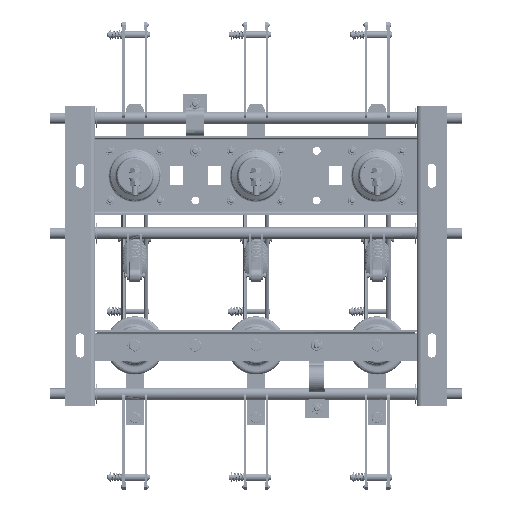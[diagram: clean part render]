
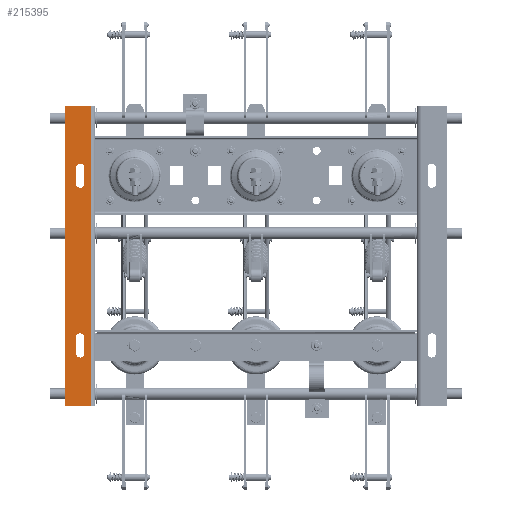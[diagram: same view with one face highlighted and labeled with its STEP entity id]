
A CAD part, front view. The second image highlights one B-rep face of the part: STEP entity #215395.
In plain terms, the highlighted planar face has unit normal (0, -1, 0).
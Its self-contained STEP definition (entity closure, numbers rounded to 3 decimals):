
#2320 = DIRECTION ( 'NONE',  ( 0., 1., 0. ) ) ;
#4794 = AXIS2_PLACEMENT_3D ( 'NONE', #53620, #189325, #73080 ) ;
#5358 = CARTESIAN_POINT ( 'NONE',  ( -290., 0., -127.002 ) ) ;
#12454 = LINE ( 'NONE', #147302, #212512 ) ;
#14221 = EDGE_CURVE ( 'NONE', #118760, #117509, #95198, .T. ) ;
#16518 = CARTESIAN_POINT ( 'NONE',  ( -283., 0., -153.002 ) ) ;
#18799 = VECTOR ( 'NONE', #197761, 1000. ) ;
#19904 = CARTESIAN_POINT ( 'NONE',  ( -273., 0., 254.998 ) ) ;
#21162 = EDGE_CURVE ( 'NONE', #228473, #157132, #12454, .T. ) ;
#22148 = CARTESIAN_POINT ( 'NONE',  ( -315., 0., 254.998 ) ) ;
#24787 = DIRECTION ( 'NONE',  ( -1., 0., 0. ) ) ;
#25325 = CARTESIAN_POINT ( 'NONE',  ( -297., 0., -153.002 ) ) ;
#27169 = CIRCLE ( 'NONE', #214005, 7. ) ;
#27284 = ORIENTED_EDGE ( 'NONE', *, *, #21162, .T. ) ;
#27478 = VERTEX_POINT ( 'NONE', #251028 ) ;
#27632 = ORIENTED_EDGE ( 'NONE', *, *, #193924, .T. ) ;
#29446 = ORIENTED_EDGE ( 'NONE', *, *, #67808, .T. ) ;
#29592 = CARTESIAN_POINT ( 'NONE',  ( -315., 0., -240.002 ) ) ;
#30218 = EDGE_LOOP ( 'NONE', ( #27632, #227531, #27284, #95481 ) ) ;
#31200 = DIRECTION ( 'NONE',  ( 0., 0., -1. ) ) ;
#32689 = EDGE_CURVE ( 'NONE', #117509, #104097, #70175, .T. ) ;
#34755 = CARTESIAN_POINT ( 'NONE',  ( -273., 0., -240.002 ) ) ;
#38034 = DIRECTION ( 'NONE',  ( 0., 0., 1. ) ) ;
#39895 = FACE_BOUND ( 'NONE', #93581, .T. ) ;
#40683 = CARTESIAN_POINT ( 'NONE',  ( -297., 0., 152.998 ) ) ;
#41579 = DIRECTION ( 'NONE',  ( -1., 0., 0. ) ) ;
#43814 = EDGE_CURVE ( 'NONE', #228473, #109439, #110324, .T. ) ;
#46078 = VECTOR ( 'NONE', #132952, 1000. ) ;
#53620 = CARTESIAN_POINT ( 'NONE',  ( -290., 0., 152.998 ) ) ;
#53956 = VERTEX_POINT ( 'NONE', #34755 ) ;
#60868 = CARTESIAN_POINT ( 'NONE',  ( -283., 0., 126.998 ) ) ;
#63131 = VERTEX_POINT ( 'NONE', #158197 ) ;
#64518 = EDGE_CURVE ( 'NONE', #27478, #225582, #72228, .T. ) ;
#65312 = ORIENTED_EDGE ( 'NONE', *, *, #90591, .T. ) ;
#67808 = EDGE_CURVE ( 'NONE', #223896, #118760, #227123, .T. ) ;
#69949 = ORIENTED_EDGE ( 'NONE', *, *, #64518, .T. ) ;
#70175 = LINE ( 'NONE', #139251, #18799 ) ;
#71763 = LINE ( 'NONE', #40683, #175017 ) ;
#72228 = LINE ( 'NONE', #60868, #175491 ) ;
#73080 = DIRECTION ( 'NONE',  ( -1., 0., 0. ) ) ;
#90591 = EDGE_CURVE ( 'NONE', #225582, #196716, #27169, .T. ) ;
#90901 = AXIS2_PLACEMENT_3D ( 'NONE', #211557, #95372, #231014 ) ;
#91385 = FACE_OUTER_BOUND ( 'NONE', #30218, .T. ) ;
#93581 = EDGE_LOOP ( 'NONE', ( #69949, #65312, #128765, #210486 ) ) ;
#95198 = CIRCLE ( 'NONE', #246050, 7. ) ;
#95372 = DIRECTION ( 'NONE',  ( 0., 1., 0. ) ) ;
#95481 = ORIENTED_EDGE ( 'NONE', *, *, #145519, .T. ) ;
#98333 = PLANE ( 'NONE',  #149472 ) ;
#104097 = VERTEX_POINT ( 'NONE', #16518 ) ;
#106445 = DIRECTION ( 'NONE',  ( 1., 0., 0. ) ) ;
#109439 = VERTEX_POINT ( 'NONE', #19904 ) ;
#110324 = LINE ( 'NONE', #133007, #162014 ) ;
#111552 = CARTESIAN_POINT ( 'NONE',  ( -283., 0., 126.998 ) ) ;
#117509 = VERTEX_POINT ( 'NONE', #231052 ) ;
#118250 = CARTESIAN_POINT ( 'NONE',  ( -290., 0., 126.998 ) ) ;
#118760 = VERTEX_POINT ( 'NONE', #137264 ) ;
#119220 = EDGE_CURVE ( 'NONE', #104097, #223896, #244629, .T. ) ;
#126437 = EDGE_CURVE ( 'NONE', #196716, #63131, #71763, .T. ) ;
#128765 = ORIENTED_EDGE ( 'NONE', *, *, #126437, .T. ) ;
#132952 = DIRECTION ( 'NONE',  ( 0., 0., 1. ) ) ;
#133007 = CARTESIAN_POINT ( 'NONE',  ( -315., 0., 254.998 ) ) ;
#133670 = CARTESIAN_POINT ( 'NONE',  ( -315., 0., 254.998 ) ) ;
#137264 = CARTESIAN_POINT ( 'NONE',  ( -297., 0., -127.002 ) ) ;
#137814 = DIRECTION ( 'NONE',  ( 1., 0., 0. ) ) ;
#138025 = VECTOR ( 'NONE', #106445, 1000. ) ;
#139251 = CARTESIAN_POINT ( 'NONE',  ( -283., 0., -153.002 ) ) ;
#140852 = DIRECTION ( 'NONE',  ( 0., 1., 0. ) ) ;
#145519 = EDGE_CURVE ( 'NONE', #157132, #53956, #241150, .T. ) ;
#147302 = CARTESIAN_POINT ( 'NONE',  ( -315., 0., 254.998 ) ) ;
#149472 = AXIS2_PLACEMENT_3D ( 'NONE', #22148, #157761, #41579 ) ;
#152689 = ORIENTED_EDGE ( 'NONE', *, *, #32689, .T. ) ;
#156834 = DIRECTION ( 'NONE',  ( 0., 0., 1. ) ) ;
#157132 = VERTEX_POINT ( 'NONE', #29592 ) ;
#157761 = DIRECTION ( 'NONE',  ( 0., -1., 0. ) ) ;
#158197 = CARTESIAN_POINT ( 'NONE',  ( -297., 0., 152.998 ) ) ;
#162014 = VECTOR ( 'NONE', #249915, 1000. ) ;
#169574 = VECTOR ( 'NONE', #38034, 1000. ) ;
#173712 = CARTESIAN_POINT ( 'NONE',  ( -297., 0., -127.002 ) ) ;
#175017 = VECTOR ( 'NONE', #156834, 1000. ) ;
#175491 = VECTOR ( 'NONE', #196590, 1000. ) ;
#188537 = FACE_BOUND ( 'NONE', #218361, .T. ) ;
#189325 = DIRECTION ( 'NONE',  ( 0., 1., 0. ) ) ;
#191377 = EDGE_CURVE ( 'NONE', #63131, #27478, #206962, .T. ) ;
#191484 = CARTESIAN_POINT ( 'NONE',  ( -273., 0., -240.002 ) ) ;
#193924 = EDGE_CURVE ( 'NONE', #53956, #109439, #246168, .T. ) ;
#196590 = DIRECTION ( 'NONE',  ( 0., 0., -1. ) ) ;
#196716 = VERTEX_POINT ( 'NONE', #210619 ) ;
#197761 = DIRECTION ( 'NONE',  ( 0., 0., -1. ) ) ;
#200806 = ORIENTED_EDGE ( 'NONE', *, *, #14221, .T. ) ;
#206962 = CIRCLE ( 'NONE', #4794, 7. ) ;
#210486 = ORIENTED_EDGE ( 'NONE', *, *, #191377, .T. ) ;
#210619 = CARTESIAN_POINT ( 'NONE',  ( -297., 0., 126.998 ) ) ;
#211557 = CARTESIAN_POINT ( 'NONE',  ( -290., 0., -153.002 ) ) ;
#212512 = VECTOR ( 'NONE', #31200, 1000. ) ;
#214005 = AXIS2_PLACEMENT_3D ( 'NONE', #118250, #2320, #137814 ) ;
#215395 = ADVANCED_FACE ( 'NONE', ( #91385, #188537, #39895 ), #98333, .T. ) ;
#218361 = EDGE_LOOP ( 'NONE', ( #241623, #29446, #200806, #152689 ) ) ;
#222554 = CARTESIAN_POINT ( 'NONE',  ( -315., 0., -240.002 ) ) ;
#223896 = VERTEX_POINT ( 'NONE', #25325 ) ;
#225582 = VERTEX_POINT ( 'NONE', #111552 ) ;
#227123 = LINE ( 'NONE', #173712, #169574 ) ;
#227531 = ORIENTED_EDGE ( 'NONE', *, *, #43814, .F. ) ;
#228473 = VERTEX_POINT ( 'NONE', #133670 ) ;
#231014 = DIRECTION ( 'NONE',  ( 1., 0., 0. ) ) ;
#231052 = CARTESIAN_POINT ( 'NONE',  ( -283., 0., -127.002 ) ) ;
#241150 = LINE ( 'NONE', #222554, #138025 ) ;
#241623 = ORIENTED_EDGE ( 'NONE', *, *, #119220, .T. ) ;
#244629 = CIRCLE ( 'NONE', #90901, 7. ) ;
#246050 = AXIS2_PLACEMENT_3D ( 'NONE', #5358, #140852, #24787 ) ;
#246168 = LINE ( 'NONE', #191484, #46078 ) ;
#249915 = DIRECTION ( 'NONE',  ( 1., 0., 0. ) ) ;
#251028 = CARTESIAN_POINT ( 'NONE',  ( -283., 0., 152.998 ) ) ;
